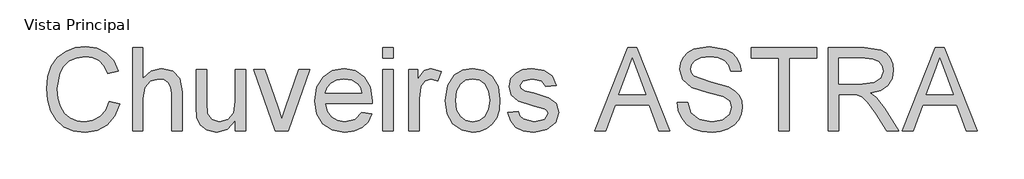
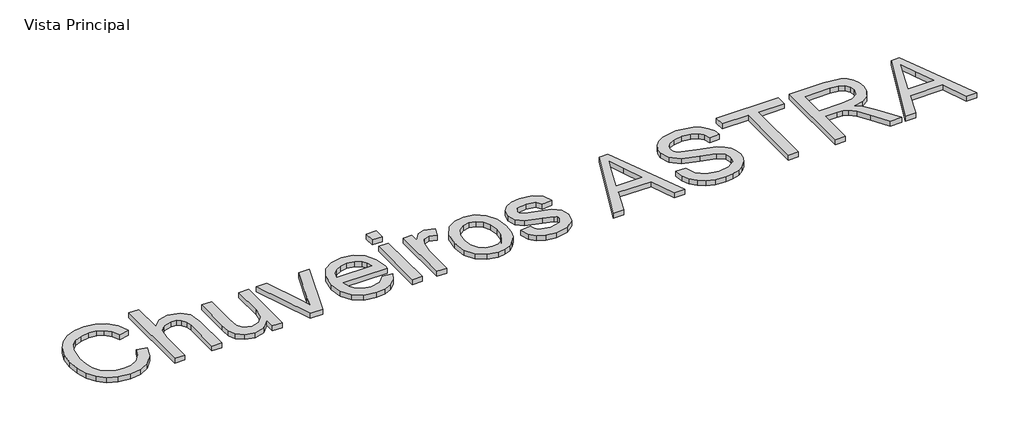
# One storey, incomplete: 1 proxy.
"""IFC4 building model written with IfcOpenShell, lengths in millimetres."""

from ifc_helpers import new_model, si_unit, origin, origin_with_axes, place, context, project, spatial, polyline, outline, extrude, element, save

model = new_model("IFC4")

# Units and contexts
model_context = context("Model", 3, world=origin())
ifc_project = project(units=[si_unit("LENGTHUNIT", "METRE", prefix="MILLI")], contexts=[model_context])

# Site, building, storey
site = spatial("IfcSite", under=ifc_project)
building = spatial("IfcBuilding", under=site)
storey = spatial("IfcBuildingStorey", under=building, Name="Vista Principal", Elevation=0.0)

# Proxy
placement = place(None, origin())
element("IfcBuildingElementProxy", 1, Name="Subtextos", ObjectType="Subtextos", at=placement, inside=storey, context=model_context, shape_type="SweptSolid", body=[
    extrude(outline(polyline([(-1897.9345714, 3046.8312097), (-1879.0990132, 3041.9751674), (-1887.7902253, 3020.0264078), (-1901.4294503, 3003.9913514), (-1919.3453035, 2994.1826977), (-1940.8664002, 2990.9131464), (-1962.7139922, 2993.3871528), (-1980.0642268, 3000.8091721), (-1993.3631609, 3012.9216868), (-2003.0568515, 3029.4671795), (-2008.9751531, 3048.91894), (-2010.9479203, 3069.750258), (-2008.7176357, 3091.7220102), (-2002.0267819, 3110.6955241), (-1991.2248468, 3126.0683929), (-1976.6613183, 3137.23821), (-1959.3892586, 3144.0394284), (-1940.46173, 3146.3065012), (-1919.8097545, 3143.3726423), (-1902.7354314, 3134.5710655), (-1889.7721896, 3120.4443969), (-1881.453458, 3101.5352624), (-1900.2890161, 3097.047102), (-1906.8189215, 3110.782896), (-1915.7400599, 3120.2052736), (-1927.1627959, 3125.6545257), (-1941.197494, 3127.470943), (-1957.3751047, 3125.4567891), (-1970.6648418, 3119.4143273), (-1980.749407, 3109.9781542), (-1987.3115021, 3097.782866), (-1992.1123621, 3069.7870462), (-1990.6914179, 3052.3862278), (-1986.4285853, 3037.3398542), (-1979.1629159, 3025.222741), (-1968.7334613, 3016.6097038), (-1956.230072, 3011.4639544), (-1942.7425984, 3009.7487046), (-1927.0202416, 3012.0847552), (-1913.919044, 3019.0929073), (-1904.0276169, 3030.6995842), (-1897.9345714, 3046.8312097)])), origin_with_axes(), (0.0, 0.0, 1.0), 10.0),
    extrude(outline(polyline([(-1855.5545655, 2993.2675912), (-1855.5545655, 3143.9520564), (-1836.7190074, 3143.9520564), (-1836.7190074, 3088.5490279), (-1822.0313187, 3101.8479621), (-1803.9407216, 3106.2809401), (-1782.7875069, 3101.4432919), (-1769.9484252, 3088.0707814), (-1766.0856643, 3063.3123231), (-1766.0856643, 2993.2675912), (-1784.9212224, 2993.2675912), (-1784.9212224, 3061.3625485), (-1786.4203416, 3073.1531664), (-1790.917699, 3081.2281762), (-1798.1649743, 3085.8910805), (-1807.9138471, 3087.445382), (-1823.3464968, 3083.2515272), (-1833.6471927, 3071.8839736), (-1836.7190074, 3052.055134), (-1836.7190074, 2993.2675912), (-1855.5545655, 2993.2675912)])), origin_with_axes(), (0.0, 0.0, 1.0), 10.0),
    extrude(outline(polyline([(-1669.5534287, 2993.2675912), (-1669.5534287, 3012.2870903), (-1684.3054968, 2996.2566324), (-1703.5457251, 2990.9131464), (-1721.2592432, 2994.6655428), (-1733.4729254, 3004.0833219), (-1739.0831258, 3017.9524731), (-1740.1867718, 3035.463656), (-1740.1867718, 3103.9264953), (-1721.3512137, 3103.9264953), (-1721.3512137, 3044.3296121), (-1720.2107795, 3025.126172), (-1712.7611691, 3013.8505888), (-1698.726471, 3009.7487046), (-1682.9995157, 3013.9425593), (-1672.6068493, 3025.3652953), (-1669.5534287, 3046.3529631), (-1669.5534287, 3103.9264953), (-1650.7178706, 3103.9264953), (-1650.7178706, 2993.2675912), (-1669.5534287, 2993.2675912)])), origin_with_axes(), (0.0, 0.0, 1.0), 10.0),
    extrude(outline(polyline([(-1597.6692869, 2993.2675912), (-1636.591202, 3103.9264953), (-1616.6519978, 3103.9264953), (-1593.0707619, 3037.6341598), (-1585.9706394, 3015.3405109), (-1579.0176697, 3036.383361), (-1555.289281, 3103.9264953), (-1535.3500769, 3103.9264953), (-1573.7937454, 2993.2675912), (-1597.6692869, 2993.2675912)])), origin_with_axes(), (0.0, 0.0, 1.0), 10.0),
    extrude(outline(polyline([(-1441.3930153, 3026.229818), (-1422.9253392, 3023.8753732), (-1429.5794048, 3009.9602367), (-1440.1973989, 2999.5583733), (-1454.5401981, 2993.0744531), (-1472.3686793, 2990.9131464), (-1494.4691902, 2994.6425502), (-1511.4745354, 3005.8307613), (-1522.3178572, 3023.751213), (-1525.9322978, 3047.6773383), (-1522.281069, 3072.4082054), (-1511.3273826, 3090.9034727), (-1494.5519636, 3102.4365733), (-1473.4355371, 3106.2809401), (-1452.9766997, 3102.4457703), (-1436.6289435, 3090.9402609), (-1425.9097819, 3072.4817818), (-1422.336728, 3047.7877029), (-1422.4470926, 3042.7109313), (-1507.0967397, 3042.7109313), (-1503.8363855, 3028.6118539), (-1496.2626149, 3018.2467787), (-1485.3319211, 3011.8732231), (-1472.0007973, 3009.7487046), (-1453.5331212, 3013.6850419), (-1441.3930153, 3026.229818)]), holes=[polyline([(-1507.0967397, 3061.5464895), (-1441.1722861, 3061.5464895), (-1443.719869, 3071.4976975), (-1448.713867, 3078.6162141), (-1459.6951446, 3085.23809), (-1473.5091135, 3087.445382), (-1486.2056409, 3085.6841469), (-1496.7040733, 3080.4004418), (-1504.0019324, 3072.1644836), (-1507.0967397, 3061.5464895)])]), origin_with_axes(), (0.0, 0.0, 1.0), 10.0),
    extrude(outline(polyline([(-1403.5011698, 2993.2675912), (-1403.5011698, 3103.9264953), (-1384.6656117, 3103.9264953), (-1384.6656117, 2993.2675912), (-1403.5011698, 2993.2675912)])), origin_with_axes(), (0.0, 0.0, 1.0), 10.0),
    extrude(outline(polyline([(-1403.5011698, 3125.1164983), (-1403.5011698, 3143.9520564), (-1384.6656117, 3143.9520564), (-1384.6656117, 3125.1164983), (-1403.5011698, 3125.1164983)])), origin_with_axes(), (0.0, 0.0, 1.0), 10.0),
    extrude(outline(polyline([(-1356.4122745, 2993.2675912), (-1356.4122745, 3103.9264953), (-1339.9311611, 3103.9264953), (-1339.9311611, 3087.5557466), (-1328.2325136, 3102.6389084), (-1316.4602898, 3106.2809401), (-1297.5511552, 3100.4684046), (-1303.8419373, 3083.582621), (-1317.0856892, 3087.445382), (-1327.7358729, 3083.7297738), (-1334.5232957, 3073.4290779), (-1337.5767163, 3051.4297346), (-1337.5767163, 2993.2675912), (-1356.4122745, 2993.2675912)])), origin_with_axes(), (0.0, 0.0, 1.0), 10.0),
    extrude(outline(polyline([(-1290.4878209, 3048.5970433), (-1286.4135278, 3075.277685), (-1274.1906485, 3094.0304697), (-1259.0890926, 3103.2183225), (-1241.0076926, 3106.2809401), (-1221.2202397, 3102.5515364), (-1205.4151095, 3091.3633252), (-1195.0546328, 3073.5992234), (-1191.6011406, 3050.1421476), (-1193.1278509, 3031.1134514), (-1197.7079817, 3016.6280979), (-1205.2081759, 3005.7801776), (-1215.4950762, 2997.663781), (-1227.713357, 2992.6008051), (-1241.0076926, 2990.9131464), (-1261.0342687, 2994.6287546), (-1276.8210048, 3005.775579), (-1287.0711169, 3023.9121614), (-1290.4878209, 3048.5970433)]), holes=[polyline([(-1271.6522628, 3048.6338315), (-1269.4725619, 3031.5870995), (-1262.9334595, 3019.4423952), (-1253.0926161, 3012.1721272), (-1241.0076926, 3009.7487046), (-1228.9779513, 3012.1859228), (-1219.1555021, 3019.4975775), (-1212.6163996, 3031.8032302), (-1210.4366988, 3049.2224427), (-1212.6301952, 3065.7725339), (-1219.2106843, 3077.7516914), (-1229.0469292, 3085.0219593), (-1241.0076926, 3087.445382), (-1253.0926161, 3085.0311564), (-1262.9334595, 3077.7884796), (-1269.4725619, 3065.6713664), (-1271.6522628, 3048.6338315)])]), origin_with_axes(), (0.0, 0.0, 1.0), 10.0),
    extrude(outline(polyline([(-1177.474472, 3026.229818), (-1158.6389138, 3028.5842627), (-1155.6682667, 3020.527647), (-1149.9201106, 3014.6047469), (-1129.9441182, 3009.7487046), (-1110.7406781, 3014.2000767), (-1104.4866842, 3024.6479254), (-1106.0593797, 3029.4487854), (-1110.7774663, 3033.1092113), (-1130.1648474, 3038.4802884), (-1158.5285492, 3047.6957324), (-1170.9077784, 3058.4562807), (-1175.1200272, 3073.6498071), (-1171.7355129, 3087.6845053), (-1162.5016748, 3098.4082654), (-1150.5271159, 3103.9816776), (-1134.321914, 3106.2809401), (-1111.4028657, 3102.5837261), (-1096.8347387, 3092.5773358), (-1090.3600155, 3075.6731581), (-1109.1955737, 3073.3187133), (-1116.2773021, 3083.7113797), (-1132.850386, 3087.445382), (-1150.8766037, 3083.8769266), (-1156.2844691, 3075.5627935), (-1154.0403889, 3070.0813518), (-1147.0138428, 3065.9242852), (-1130.7902468, 3061.9143715), (-1103.1439149, 3053.0484154), (-1090.3048332, 3043.0052369), (-1085.651126, 3026.6344882), (-1091.1141736, 3008.6082704), (-1106.8779171, 2995.5300655), (-1130.2016356, 2990.9131464), (-1149.1935436, 2993.1388325), (-1163.0534978, 2999.8158907), (-1172.30573, 3010.8707447), (-1177.474472, 3026.229818)])), origin_with_axes(), (0.0, 0.0, 1.0), 10.0),
    extrude(outline(polyline([(-1020.7935303, 2993.2675912), (-960.644824, 3143.9520564), (-944.6051691, 3143.9520564), (-884.4564628, 2993.2675912), (-904.3588788, 2993.2675912), (-921.6125444, 3040.3564866), (-983.6742369, 3040.3564866), (-1000.8911143, 2993.2675912), (-1020.7935303, 2993.2675912)]), holes=[polyline([(-976.7580554, 3059.1920447), (-928.4919377, 3059.1920447), (-942.0667833, 3096.2377616), (-952.6249965, 3125.1164983), (-962.0059874, 3099.4751232), (-976.7580554, 3059.1920447)])]), origin_with_axes(), (0.0, 0.0, 1.0), 10.0),
    extrude(outline(polyline([(-871.396652, 3045.0653761), (-852.5610939, 3045.0653761), (-846.4910409, 3026.2114239), (-831.6653965, 3014.2920472), (-809.077442, 3009.7487046), (-789.3957553, 3013.1884012), (-776.6854324, 3022.6429685), (-772.5099717, 3035.279715), (-775.6369687, 3047.0335448), (-788.4392621, 3055.5868012), (-815.8648648, 3062.7788942), (-845.387395, 3072.0679146), (-861.4086558, 3086.0842186), (-866.6877625, 3104.8094121), (-865.0552861, 3115.8412735), (-860.1578571, 3126.1281738), (-852.124234, 3134.846977), (-841.0831756, 3141.1745474), (-813.1609322, 3146.3065012), (-783.3624906, 3140.9354241), (-771.9397546, 3134.3043511), (-763.4968628, 3125.1532865), (-758.1533768, 3114.0524473), (-756.0288583, 3101.5720506), (-774.8644165, 3101.5720506), (-778.3225072, 3112.8108455), (-785.5329943, 3120.9226435), (-796.7993804, 3125.8338682), (-812.4251682, 3127.470943), (-828.4188379, 3125.8522623), (-839.3909184, 3120.9962199), (-845.7368828, 3113.8501122), (-847.8522043, 3105.3612351), (-846.3530852, 3098.1231569), (-841.8557278, 3092.3014243), (-811.100793, 3081.7799992), (-777.7706842, 3072.325432), (-767.0331285, 3065.4920239), (-759.5421314, 3057.0583292), (-755.141343, 3047.1163182), (-753.6744136, 3035.7579616), (-755.3620722, 3024.1466862), (-760.4250482, 3013.2251894), (-768.6564078, 3003.8258045), (-779.8492175, 2996.7808642), (-793.3091, 2992.3800759), (-808.341678, 2990.9131464), (-826.7955586, 2992.495039), (-841.9844865, 2997.2407167), (-854.0832056, 3005.1685737), (-863.2664599, 3016.2970041), (-869.1617689, 3029.8534556), (-871.396652, 3045.0653761)])), origin_with_axes(), (0.0, 0.0, 1.0), 10.0),
    extrude(outline(polyline([(-687.74996, 2993.2675912), (-687.74996, 3125.1164983), (-737.1933002, 3125.1164983), (-737.1933002, 3143.9520564), (-619.4710617, 3143.9520564), (-619.4710617, 3125.1164983), (-668.9144019, 3125.1164983), (-668.9144019, 2993.2675912), (-687.74996, 2993.2675912)])), origin_with_axes(), (0.0, 0.0, 1.0), 10.0),
    extrude(outline(polyline([(-598.2810588, 2993.2675912), (-598.2810588, 3143.9520564), (-533.3498866, 3143.9520564), (-503.2019571, 3139.8869604), (-493.9221338, 3134.2583658), (-486.7208438, 3125.5027744), (-482.0993262, 3114.645657), (-480.5588203, 3102.7124848), (-483.1110017, 3087.8684463), (-490.7675457, 3075.5627935), (-503.7583787, 3066.5404876), (-522.3134268, 3061.5464895), (-511.6080607, 3053.4898738), (-496.3409579, 3034.1024927), (-471.2146177, 2993.2675912), (-493.1035964, 2993.2675912), (-512.7117067, 3024.5007726), (-526.8751635, 3045.1757407), (-536.8263715, 3054.9430077), (-545.7842981, 3058.5298571), (-556.7103933, 3059.1920447), (-579.4455006, 3059.1920447), (-579.4455006, 2993.2675912), (-598.2810588, 2993.2675912)]), holes=[polyline([(-579.4455006, 3078.0276029), (-537.286224, 3078.0276029), (-515.7835214, 3080.6947473), (-503.5698391, 3089.2296096), (-499.3943785, 3102.013509), (-501.3855398, 3111.2013618), (-507.3590237, 3118.604987), (-517.6367269, 3123.4886204), (-532.5405463, 3125.1164983), (-579.4455006, 3125.1164983), (-579.4455006, 3078.0276029)])]), origin_with_axes(), (0.0, 0.0, 1.0), 10.0),
    extrude(outline(polyline([(-465.1445647, 2993.2675912), (-404.9958585, 3143.9520564), (-388.9562035, 3143.9520564), (-328.8074973, 2993.2675912), (-348.7099133, 2993.2675912), (-365.9635788, 3040.3564866), (-428.0252714, 3040.3564866), (-445.2421488, 2993.2675912), (-465.1445647, 2993.2675912)]), holes=[polyline([(-421.1090899, 3059.1920447), (-372.8429721, 3059.1920447), (-386.4178178, 3096.2377616), (-396.976031, 3125.1164983), (-406.3570219, 3099.4751232), (-421.1090899, 3059.1920447)])]), origin_with_axes(), (0.0, 0.0, 1.0), 10.0),
])

save(model, "model.ifc")
